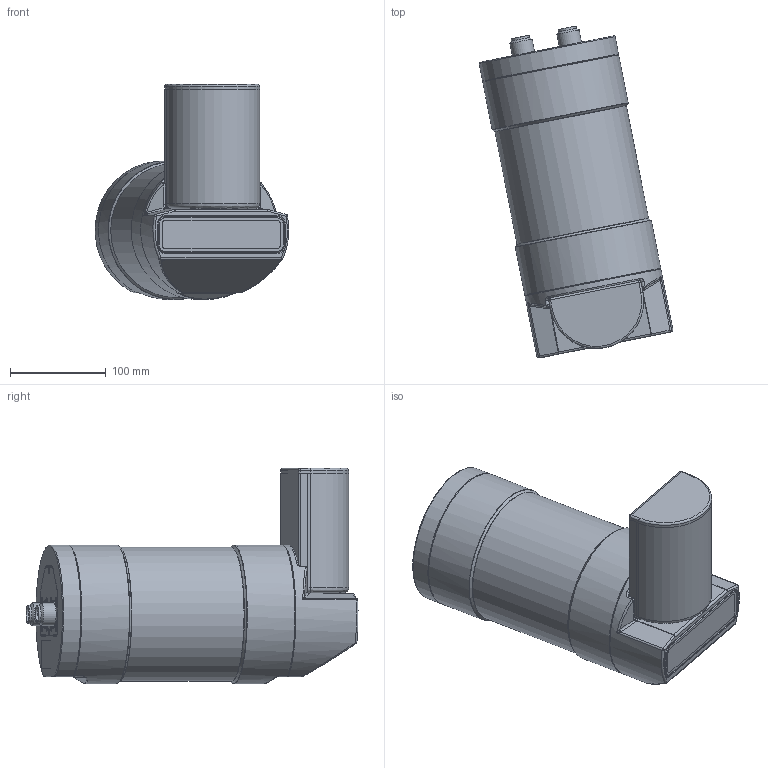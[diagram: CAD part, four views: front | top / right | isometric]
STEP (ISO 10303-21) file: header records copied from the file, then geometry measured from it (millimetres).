
FILE_DESCRIPTION (( 'STEP AP214' ), '1' );
FILE_NAME ('Gemini NBI FWD Facing Dual Port.STEP', '2015-05-21T13:46:54', ( 'Admin' ), ( 'Microsoft' ), 'SwSTEP 2.0', 'SolidWorks 2013', '' );
FILE_SCHEMA (( 'AUTOMOTIVE_DESIGN' ));
Length unit declared in the file: millimetre
Products named in the file (1): Gemini NBI FWD Facing Dual Port
Bounding box: 202.42 x 346.87 x 225 mm (x, y, z)
Surface area: 246961.7 mm2 (no closed solid volume)
Topology: 0 solids, 366 shells, 1418 faces, 5118 edges, 3983 vertices
Faces by surface type: plane 884, cylinder 303, bspline 92, cone 71, torus 58, sphere 10
Full cylindrical faces by diameter (mm): 1 x3, 1.47 x14, 6 x1, 19.3 x2, 20.3 x2, 23.7 x2, 119.85 x2, 140 x1, 145 x2
Entity records: 72511 total; most frequent: CARTESIAN_POINT 15712, DIRECTION 8380, ORIENTED_EDGE 6603, EDGE_CURVE 4997, VERTEX_POINT 3957, LINE 3678, VECTOR 3678, AXIS2_PLACEMENT_3D 2351
